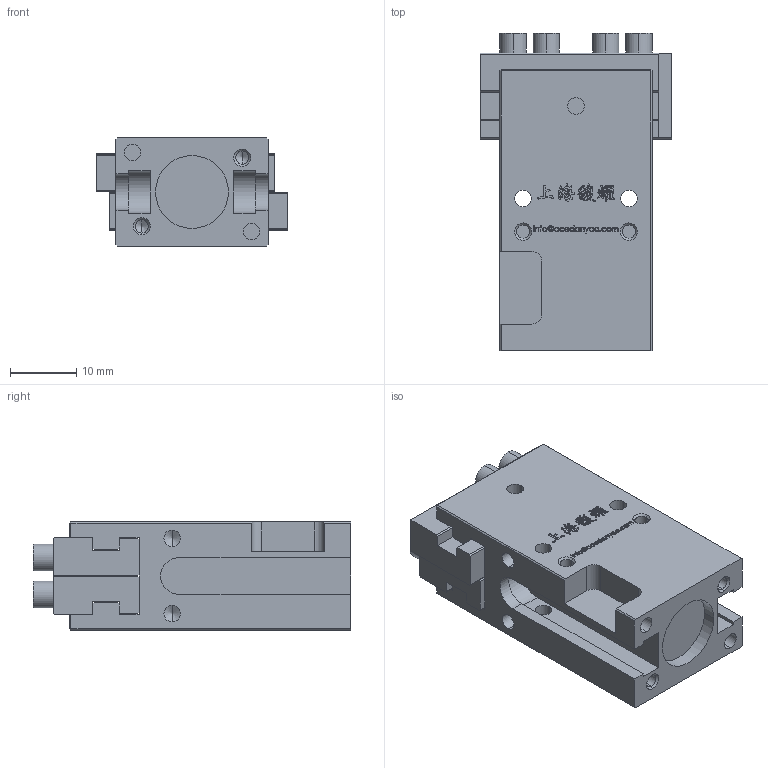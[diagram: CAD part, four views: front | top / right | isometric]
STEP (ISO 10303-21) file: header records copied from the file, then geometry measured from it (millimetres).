
FILE_DESCRIPTION (( 'STEP AP203' ), '1' );
FILE_NAME ('PEP-10-C1-VT-原始檔-組合-W106.04.20.STEP', '2017-04-20T01:42:20', ( 'DanyaoCAD' ), ( '' ), 'SwSTEP 2.0', 'SolidWorks 2016', '' );
FILE_SCHEMA (( 'CONFIG_CONTROL_DESIGN' ));
Length unit declared in the file: millimetre
Products named in the file (3): Griffa; Corpo; PEP-10-C1-VT-原始檔-組合-W106.04.20
Assembly tree (3 placements, depth 2):
  PEP-10-C1-VT-原始檔-組合-W106.04.20
    Griffa  x2
    Corpo
Bounding box: 29 x 48 x 16.4 mm (x, y, z)
Volume: 14269.7 mm3; surface area: 8698.4 mm2
Topology: 3 solids, 3 shells, 983 faces, 2722 edges, 1790 vertices
Faces by surface type: bspline 640, plane 249, cylinder 66, cone 28
Entity records: 46684 total; most frequent: CARTESIAN_POINT 26435, ORIENTED_EDGE 5246, EDGE_CURVE 2623, DIRECTION 2087, VERTEX_POINT 1738, B_SPLINE_CURVE_WITH_KNOTS 1280, VECTOR 1227, LINE 1227
